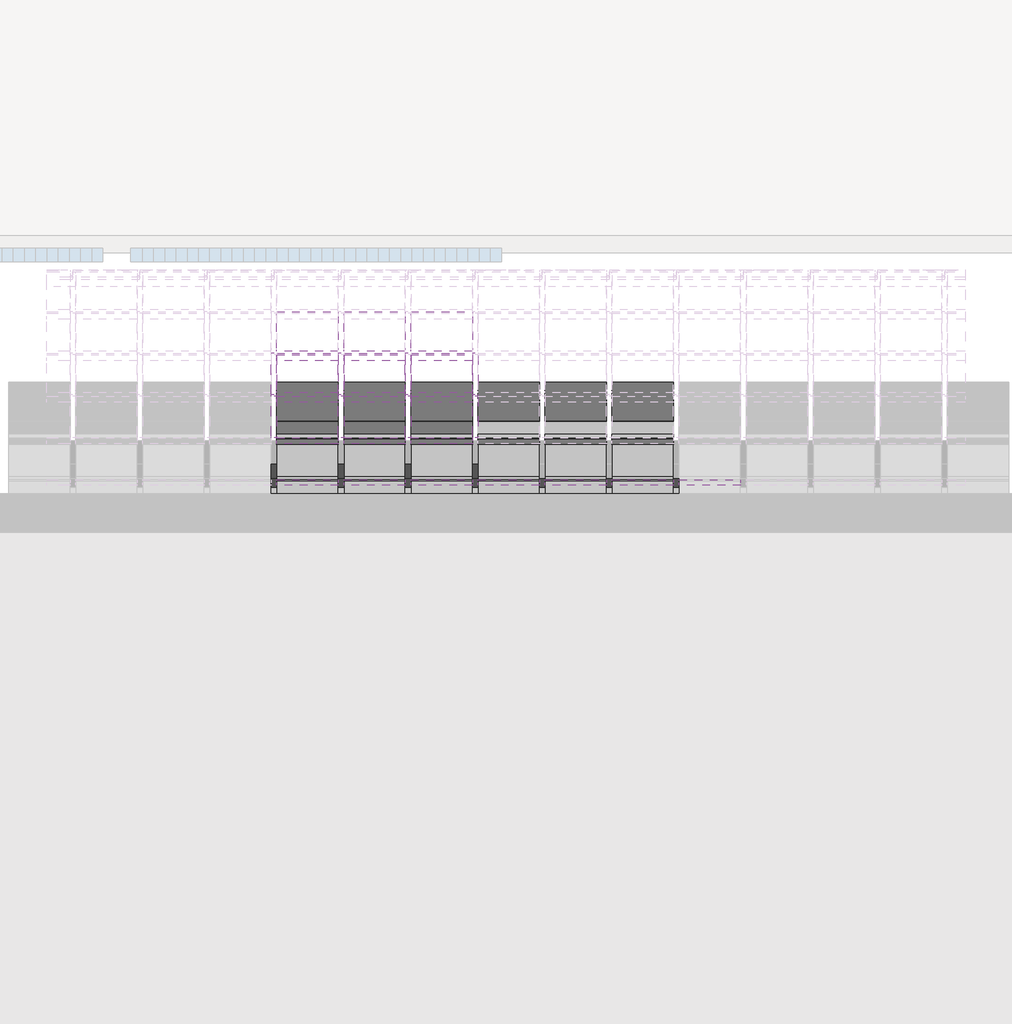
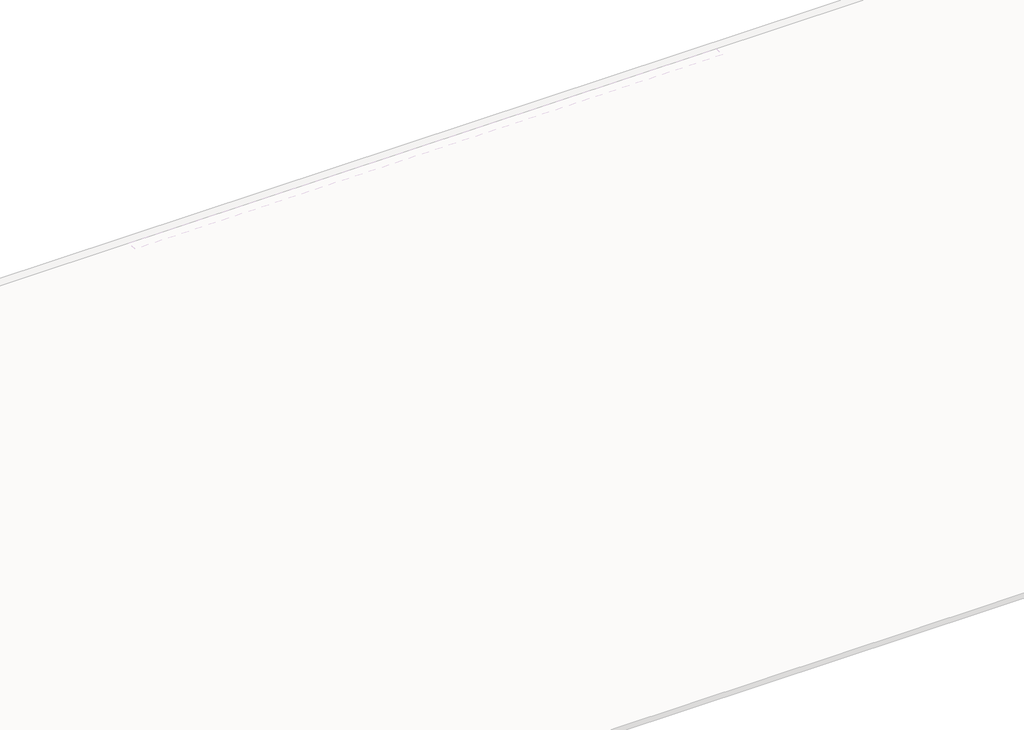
# One storey, part 49 of 57: 88 members, 36 plates.
"""IFC4 building model written with IfcOpenShell, lengths in millimetres."""

from ifc_helpers import new_model, si_unit, origin, place, context, project, spatial, transform, mapped, element, save
from components import rectangular_mullion_59984080, rectangular_mullion_2d2423ea, rectangular_mullion_caibro_e4384bba, rectangular_mullion_caibro_9bd7bc61, empty_system_panel_vazio_178faf58, empty_system_panel_vazio_2c78850d

model = new_model("IFC4")

# Units and contexts
model_context = context("Model", 3, world=origin())
ifc_project = project(units=[si_unit("LENGTHUNIT", "METRE", prefix="MILLI")], contexts=[model_context])

# Site, building, storey
site = spatial("IfcSite", under=ifc_project)
building = spatial("IfcBuilding", under=site)
storey = spatial("IfcBuildingStorey", under=building, Name="Nível 2", Elevation=4100.0)

# Members
placement = place(None, origin())
rectangular_mullion_shape = rectangular_mullion_59984080(model_context)
element("IfcMember", 1, ObjectType="Rectangular Mullion : Ripa", at=placement, inside=storey, context=model_context, shape_type="MappedRepresentation", body=[
    mapped(rectangular_mullion_shape, transform((33420.5827427, 12234.5331147, 4820.409113), x_axis=(0.0, 0.9578262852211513, 0.2873478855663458), y_axis=(0.0, 0.2873478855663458, -0.9578262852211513), z_axis=(-1.0, 0.0, 0.0))),
])
element("IfcMember", 2, ObjectType="Rectangular Mullion : Ripa", at=placement, inside=storey, context=model_context, shape_type="MappedRepresentation", body=[
    mapped(rectangular_mullion_shape, transform((34017.6374991, 12234.5331147, 4820.409113), x_axis=(0.0, 0.9578262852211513, 0.2873478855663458), y_axis=(0.0, 0.2873478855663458, -0.9578262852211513), z_axis=(-1.0, 0.0, 0.0))),
])
element("IfcMember", 3, ObjectType="Rectangular Mullion : Ripa", at=placement, inside=storey, context=model_context, shape_type="MappedRepresentation", body=[
    mapped(rectangular_mullion_shape, transform((34614.6922555, 12234.5331147, 4820.409113), x_axis=(0.0, 0.9578262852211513, 0.2873478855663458), y_axis=(0.0, 0.2873478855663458, -0.9578262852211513), z_axis=(-1.0, 0.0, 0.0))),
])
element("IfcMember", 4, ObjectType="Rectangular Mullion : Ripa", at=placement, inside=storey, context=model_context, shape_type="MappedRepresentation", body=[
    mapped(rectangular_mullion_shape, transform((35211.747012, 12234.5331147, 4820.409113), x_axis=(0.0, 0.9578262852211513, 0.2873478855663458), y_axis=(0.0, 0.2873478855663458, -0.9578262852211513), z_axis=(-1.0, 0.0, 0.0))),
])
element("IfcMember", 5, ObjectType="Rectangular Mullion : Ripa", at=placement, inside=storey, context=model_context, shape_type="MappedRepresentation", body=[
    mapped(rectangular_mullion_shape, transform((35808.8017684, 12234.5331147, 4820.409113), x_axis=(0.0, 0.9578262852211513, 0.2873478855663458), y_axis=(0.0, 0.2873478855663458, -0.9578262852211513), z_axis=(-1.0, 0.0, 0.0))),
])
element("IfcMember", 6, ObjectType="Rectangular Mullion : Ripa", at=placement, inside=storey, context=model_context, shape_type="MappedRepresentation", body=[
    mapped(rectangular_mullion_shape, transform((33420.5827427, 12604.7103734, 4931.4622906), x_axis=(0.0, 0.9578262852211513, 0.2873478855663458), y_axis=(0.0, 0.2873478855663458, -0.9578262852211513), z_axis=(-1.0, 0.0, 0.0))),
])
element("IfcMember", 7, ObjectType="Rectangular Mullion : Ripa", at=placement, inside=storey, context=model_context, shape_type="MappedRepresentation", body=[
    mapped(rectangular_mullion_shape, transform((34017.6374991, 12604.7103734, 4931.4622906), x_axis=(0.0, 0.9578262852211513, 0.2873478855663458), y_axis=(0.0, 0.2873478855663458, -0.9578262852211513), z_axis=(-1.0, 0.0, 0.0))),
])
element("IfcMember", 8, ObjectType="Rectangular Mullion : Ripa", at=placement, inside=storey, context=model_context, shape_type="MappedRepresentation", body=[
    mapped(rectangular_mullion_shape, transform((34614.6922555, 12604.7103734, 4931.4622906), x_axis=(0.0, 0.9578262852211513, 0.2873478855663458), y_axis=(0.0, 0.2873478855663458, -0.9578262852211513), z_axis=(-1.0, 0.0, 0.0))),
])
element("IfcMember", 9, ObjectType="Rectangular Mullion : Ripa", at=placement, inside=storey, context=model_context, shape_type="MappedRepresentation", body=[
    mapped(rectangular_mullion_shape, transform((35211.747012, 12604.7103734, 4931.4622906), x_axis=(0.0, 0.9578262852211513, 0.2873478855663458), y_axis=(0.0, 0.2873478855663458, -0.9578262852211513), z_axis=(-1.0, 0.0, 0.0))),
])
element("IfcMember", 10, ObjectType="Rectangular Mullion : Ripa", at=placement, inside=storey, context=model_context, shape_type="MappedRepresentation", body=[
    mapped(rectangular_mullion_shape, transform((35808.8017684, 12604.7103734, 4931.4622906), x_axis=(0.0, 0.9578262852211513, 0.2873478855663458), y_axis=(0.0, 0.2873478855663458, -0.9578262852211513), z_axis=(-1.0, 0.0, 0.0))),
])
element("IfcMember", 11, ObjectType="Rectangular Mullion : Ripa", at=placement, inside=storey, context=model_context, shape_type="MappedRepresentation", body=[
    mapped(rectangular_mullion_shape, transform((33420.5827427, 12974.8876321, 5042.5154682), x_axis=(0.0, 0.9578262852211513, 0.2873478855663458), y_axis=(0.0, 0.2873478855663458, -0.9578262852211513), z_axis=(-1.0, 0.0, 0.0))),
])
element("IfcMember", 12, ObjectType="Rectangular Mullion : Ripa", at=placement, inside=storey, context=model_context, shape_type="MappedRepresentation", body=[
    mapped(rectangular_mullion_shape, transform((34017.6374991, 12974.8876321, 5042.5154682), x_axis=(0.0, 0.9578262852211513, 0.2873478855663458), y_axis=(0.0, 0.2873478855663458, -0.9578262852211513), z_axis=(-1.0, 0.0, 0.0))),
])
element("IfcMember", 13, ObjectType="Rectangular Mullion : Ripa", at=placement, inside=storey, context=model_context, shape_type="MappedRepresentation", body=[
    mapped(rectangular_mullion_shape, transform((34614.6922555, 12974.8876321, 5042.5154682), x_axis=(0.0, 0.9578262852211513, 0.2873478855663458), y_axis=(0.0, 0.2873478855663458, -0.9578262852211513), z_axis=(-1.0, 0.0, 0.0))),
])
element("IfcMember", 14, ObjectType="Rectangular Mullion : Ripa", at=placement, inside=storey, context=model_context, shape_type="MappedRepresentation", body=[
    mapped(rectangular_mullion_shape, transform((35211.747012, 12974.8876321, 5042.5154682), x_axis=(0.0, 0.9578262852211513, 0.2873478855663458), y_axis=(0.0, 0.2873478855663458, -0.9578262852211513), z_axis=(-1.0, 0.0, 0.0))),
])
element("IfcMember", 15, ObjectType="Rectangular Mullion : Ripa", at=placement, inside=storey, context=model_context, shape_type="MappedRepresentation", body=[
    mapped(rectangular_mullion_shape, transform((35808.8017684, 12974.8876321, 5042.5154682), x_axis=(0.0, 0.9578262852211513, 0.2873478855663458), y_axis=(0.0, 0.2873478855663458, -0.9578262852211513), z_axis=(-1.0, 0.0, 0.0))),
])
element("IfcMember", 16, ObjectType="Rectangular Mullion : Ripa", at=placement, inside=storey, context=model_context, shape_type="MappedRepresentation", body=[
    mapped(rectangular_mullion_shape, transform((32226.4732298, 13345.0648907, 5153.5686458), x_axis=(0.0, 0.9578262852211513, 0.2873478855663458), y_axis=(0.0, 0.2873478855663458, -0.9578262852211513), z_axis=(-1.0, 0.0, 0.0))),
])
element("IfcMember", 17, ObjectType="Rectangular Mullion : Ripa", at=placement, inside=storey, context=model_context, shape_type="MappedRepresentation", body=[
    mapped(rectangular_mullion_shape, transform((32823.5279863, 13345.0648907, 5153.5686458), x_axis=(0.0, 0.9578262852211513, 0.2873478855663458), y_axis=(0.0, 0.2873478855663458, -0.9578262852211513), z_axis=(-1.0, 0.0, 0.0))),
])
element("IfcMember", 18, ObjectType="Rectangular Mullion : Ripa", at=placement, inside=storey, context=model_context, shape_type="MappedRepresentation", body=[
    mapped(rectangular_mullion_shape, transform((33420.5827427, 13345.0648907, 5153.5686458), x_axis=(0.0, 0.9578262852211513, 0.2873478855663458), y_axis=(0.0, 0.2873478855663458, -0.9578262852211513), z_axis=(-1.0, 0.0, 0.0))),
])
element("IfcMember", 19, ObjectType="Rectangular Mullion : Ripa", at=placement, inside=storey, context=model_context, shape_type="MappedRepresentation", body=[
    mapped(rectangular_mullion_shape, transform((34017.6374991, 13345.0648907, 5153.5686458), x_axis=(0.0, 0.9578262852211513, 0.2873478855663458), y_axis=(0.0, 0.2873478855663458, -0.9578262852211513), z_axis=(-1.0, 0.0, 0.0))),
])
element("IfcMember", 20, ObjectType="Rectangular Mullion : Ripa", at=placement, inside=storey, context=model_context, shape_type="MappedRepresentation", body=[
    mapped(rectangular_mullion_shape, transform((34614.6922555, 13345.0648907, 5153.5686458), x_axis=(0.0, 0.9578262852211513, 0.2873478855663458), y_axis=(0.0, 0.2873478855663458, -0.9578262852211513), z_axis=(-1.0, 0.0, 0.0))),
])
element("IfcMember", 21, ObjectType="Rectangular Mullion : Ripa", at=placement, inside=storey, context=model_context, shape_type="MappedRepresentation", body=[
    mapped(rectangular_mullion_shape, transform((35211.747012, 13345.0648907, 5153.5686458), x_axis=(0.0, 0.9578262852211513, 0.2873478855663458), y_axis=(0.0, 0.2873478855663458, -0.9578262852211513), z_axis=(-1.0, 0.0, 0.0))),
])
element("IfcMember", 22, ObjectType="Rectangular Mullion : Ripa", at=placement, inside=storey, context=model_context, shape_type="MappedRepresentation", body=[
    mapped(rectangular_mullion_shape, transform((35808.8017684, 13345.0648907, 5153.5686458), x_axis=(0.0, 0.9578262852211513, 0.2873478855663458), y_axis=(0.0, 0.2873478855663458, -0.9578262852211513), z_axis=(-1.0, 0.0, 0.0))),
])
element("IfcMember", 23, ObjectType="Rectangular Mullion : Ripa", at=placement, inside=storey, context=model_context, shape_type="MappedRepresentation", body=[
    mapped(rectangular_mullion_shape, transform((32226.4732298, 13715.2421494, 5264.6218234), x_axis=(0.0, 0.9578262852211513, 0.2873478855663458), y_axis=(0.0, 0.2873478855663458, -0.9578262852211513), z_axis=(-1.0, 0.0, 0.0))),
])
element("IfcMember", 24, ObjectType="Rectangular Mullion : Ripa", at=placement, inside=storey, context=model_context, shape_type="MappedRepresentation", body=[
    mapped(rectangular_mullion_shape, transform((32823.5279863, 13715.2421494, 5264.6218234), x_axis=(0.0, 0.9578262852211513, 0.2873478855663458), y_axis=(0.0, 0.2873478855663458, -0.9578262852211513), z_axis=(-1.0, 0.0, 0.0))),
])
element("IfcMember", 25, ObjectType="Rectangular Mullion : Ripa", at=placement, inside=storey, context=model_context, shape_type="MappedRepresentation", body=[
    mapped(rectangular_mullion_shape, transform((33420.5827427, 13715.2421494, 5264.6218234), x_axis=(0.0, 0.9578262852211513, 0.2873478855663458), y_axis=(0.0, 0.2873478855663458, -0.9578262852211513), z_axis=(-1.0, 0.0, 0.0))),
])
element("IfcMember", 26, ObjectType="Rectangular Mullion : Ripa", at=placement, inside=storey, context=model_context, shape_type="MappedRepresentation", body=[
    mapped(rectangular_mullion_shape, transform((34017.6374991, 13715.2421494, 5264.6218234), x_axis=(0.0, 0.9578262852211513, 0.2873478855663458), y_axis=(0.0, 0.2873478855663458, -0.9578262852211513), z_axis=(-1.0, 0.0, 0.0))),
])
element("IfcMember", 27, ObjectType="Rectangular Mullion : Ripa", at=placement, inside=storey, context=model_context, shape_type="MappedRepresentation", body=[
    mapped(rectangular_mullion_shape, transform((34614.6922555, 13715.2421494, 5264.6218234), x_axis=(0.0, 0.9578262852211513, 0.2873478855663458), y_axis=(0.0, 0.2873478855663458, -0.9578262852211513), z_axis=(-1.0, 0.0, 0.0))),
])
element("IfcMember", 28, ObjectType="Rectangular Mullion : Ripa", at=placement, inside=storey, context=model_context, shape_type="MappedRepresentation", body=[
    mapped(rectangular_mullion_shape, transform((35211.747012, 13715.2421494, 5264.6218234), x_axis=(0.0, 0.9578262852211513, 0.2873478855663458), y_axis=(0.0, 0.2873478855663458, -0.9578262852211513), z_axis=(-1.0, 0.0, 0.0))),
])
element("IfcMember", 29, ObjectType="Rectangular Mullion : Ripa", at=placement, inside=storey, context=model_context, shape_type="MappedRepresentation", body=[
    mapped(rectangular_mullion_shape, transform((35808.8017684, 13715.2421494, 5264.6218234), x_axis=(0.0, 0.9578262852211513, 0.2873478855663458), y_axis=(0.0, 0.2873478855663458, -0.9578262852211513), z_axis=(-1.0, 0.0, 0.0))),
])
element("IfcMember", 30, ObjectType="Rectangular Mullion : Ripa", at=placement, inside=storey, context=model_context, shape_type="MappedRepresentation", body=[
    mapped(rectangular_mullion_shape, transform((32226.4732298, 14085.4194081, 5375.675001), x_axis=(0.0, 0.9578262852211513, 0.2873478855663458), y_axis=(0.0, 0.2873478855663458, -0.9578262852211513), z_axis=(-1.0, 0.0, 0.0))),
])
element("IfcMember", 31, ObjectType="Rectangular Mullion : Ripa", at=placement, inside=storey, context=model_context, shape_type="MappedRepresentation", body=[
    mapped(rectangular_mullion_shape, transform((32823.5279863, 14085.4194081, 5375.675001), x_axis=(0.0, 0.9578262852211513, 0.2873478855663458), y_axis=(0.0, 0.2873478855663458, -0.9578262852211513), z_axis=(-1.0, 0.0, 0.0))),
])
element("IfcMember", 32, ObjectType="Rectangular Mullion : Ripa", at=placement, inside=storey, context=model_context, shape_type="MappedRepresentation", body=[
    mapped(rectangular_mullion_shape, transform((33420.5827427, 14085.4194081, 5375.675001), x_axis=(0.0, 0.9578262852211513, 0.2873478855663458), y_axis=(0.0, 0.2873478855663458, -0.9578262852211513), z_axis=(-1.0, 0.0, 0.0))),
])
element("IfcMember", 33, ObjectType="Rectangular Mullion : Ripa", at=placement, inside=storey, context=model_context, shape_type="MappedRepresentation", body=[
    mapped(rectangular_mullion_shape, transform((32226.4732298, 14455.5966667, 5486.7281786), x_axis=(0.0, 0.9578262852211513, 0.2873478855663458), y_axis=(0.0, 0.2873478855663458, -0.9578262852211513), z_axis=(-1.0, 0.0, 0.0))),
])
element("IfcMember", 34, ObjectType="Rectangular Mullion : Ripa", at=placement, inside=storey, context=model_context, shape_type="MappedRepresentation", body=[
    mapped(rectangular_mullion_shape, transform((32823.5279863, 14455.5966667, 5486.7281786), x_axis=(0.0, 0.9578262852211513, 0.2873478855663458), y_axis=(0.0, 0.2873478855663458, -0.9578262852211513), z_axis=(-1.0, 0.0, 0.0))),
])
element("IfcMember", 35, ObjectType="Rectangular Mullion : Ripa", at=placement, inside=storey, context=model_context, shape_type="MappedRepresentation", body=[
    mapped(rectangular_mullion_shape, transform((33420.5827427, 14455.5966667, 5486.7281786), x_axis=(0.0, 0.9578262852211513, 0.2873478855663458), y_axis=(0.0, 0.2873478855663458, -0.9578262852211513), z_axis=(-1.0, 0.0, 0.0))),
])
element("IfcMember", 36, ObjectType="Rectangular Mullion : Ripa", at=placement, inside=storey, context=model_context, shape_type="MappedRepresentation", body=[
    mapped(rectangular_mullion_shape, transform((32226.4732298, 14825.7739254, 5597.7813562), x_axis=(0.0, 0.9578262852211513, 0.2873478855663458), y_axis=(0.0, 0.2873478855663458, -0.9578262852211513), z_axis=(-1.0, 0.0, 0.0))),
])
element("IfcMember", 37, ObjectType="Rectangular Mullion : Ripa", at=placement, inside=storey, context=model_context, shape_type="MappedRepresentation", body=[
    mapped(rectangular_mullion_shape, transform((32823.5279863, 14825.7739254, 5597.7813562), x_axis=(0.0, 0.9578262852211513, 0.2873478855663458), y_axis=(0.0, 0.2873478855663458, -0.9578262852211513), z_axis=(-1.0, 0.0, 0.0))),
])
element("IfcMember", 38, ObjectType="Rectangular Mullion : Ripa", at=placement, inside=storey, context=model_context, shape_type="MappedRepresentation", body=[
    mapped(rectangular_mullion_shape, transform((33420.5827427, 14825.7739254, 5597.7813562), x_axis=(0.0, 0.9578262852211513, 0.2873478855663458), y_axis=(0.0, 0.2873478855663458, -0.9578262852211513), z_axis=(-1.0, 0.0, 0.0))),
])
rectangular_mullion_2_shape = rectangular_mullion_2d2423ea(model_context)
element("IfcMember", 39, ObjectType="Rectangular Mullion : Terça", at=placement, inside=storey, context=model_context, shape_type="MappedRepresentation", body=[
    mapped(rectangular_mullion_2_shape, transform((32226.4732298, 13411.2689826, 5110.7880343), x_axis=(0.0, 0.9578262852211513, 0.2873478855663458), y_axis=(0.0, 0.2873478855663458, -0.9578262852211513), z_axis=(-1.0, 0.0, 0.0))),
])
element("IfcMember", 40, ObjectType="Rectangular Mullion : Terça", at=placement, inside=storey, context=model_context, shape_type="MappedRepresentation", body=[
    mapped(rectangular_mullion_2_shape, transform((32823.5279863, 13411.2689826, 5110.7880343), x_axis=(0.0, 0.9578262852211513, 0.2873478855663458), y_axis=(0.0, 0.2873478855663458, -0.9578262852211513), z_axis=(-1.0, 0.0, 0.0))),
])
element("IfcMember", 41, ObjectType="Rectangular Mullion : Terça", at=placement, inside=storey, context=model_context, shape_type="MappedRepresentation", body=[
    mapped(rectangular_mullion_2_shape, transform((33420.5827427, 13411.2689826, 5110.7880343), x_axis=(0.0, 0.9578262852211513, 0.2873478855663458), y_axis=(0.0, 0.2873478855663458, -0.9578262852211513), z_axis=(-1.0, 0.0, 0.0))),
])
element("IfcMember", 42, ObjectType="Rectangular Mullion : Terça", at=placement, inside=storey, context=model_context, shape_type="MappedRepresentation", body=[
    mapped(rectangular_mullion_2_shape, transform((34017.6374991, 13411.2689826, 5110.7880343), x_axis=(0.0, 0.9578262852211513, 0.2873478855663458), y_axis=(0.0, 0.2873478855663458, -0.9578262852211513), z_axis=(-1.0, 0.0, 0.0))),
])
element("IfcMember", 43, ObjectType="Rectangular Mullion : Terça", at=placement, inside=storey, context=model_context, shape_type="MappedRepresentation", body=[
    mapped(rectangular_mullion_2_shape, transform((34614.6922555, 13411.2689826, 5110.7880343), x_axis=(0.0, 0.9578262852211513, 0.2873478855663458), y_axis=(0.0, 0.2873478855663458, -0.9578262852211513), z_axis=(-1.0, 0.0, 0.0))),
])
element("IfcMember", 44, ObjectType="Rectangular Mullion : Terça", at=placement, inside=storey, context=model_context, shape_type="MappedRepresentation", body=[
    mapped(rectangular_mullion_2_shape, transform((35211.747012, 13411.2689826, 5110.7880343), x_axis=(0.0, 0.9578262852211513, 0.2873478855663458), y_axis=(0.0, 0.2873478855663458, -0.9578262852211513), z_axis=(-1.0, 0.0, 0.0))),
])
element("IfcMember", 45, ObjectType="Rectangular Mullion : Terça", at=placement, inside=storey, context=model_context, shape_type="MappedRepresentation", body=[
    mapped(rectangular_mullion_2_shape, transform((35808.8017684, 13411.2689826, 5110.7880343), x_axis=(0.0, 0.9578262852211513, 0.2873478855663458), y_axis=(0.0, 0.2873478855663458, -0.9578262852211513), z_axis=(-1.0, 0.0, 0.0))),
])
rectangular_mullion_caibro_shape = rectangular_mullion_caibro_e4384bba(model_context)
element("IfcMember", 46, ObjectType="Rectangular Mullion : Caibro", at=placement, inside=storey, context=model_context, shape_type="MappedRepresentation", body=[
    mapped(rectangular_mullion_caibro_shape, transform((32201.4732298, 13345.0648907, 5153.5686458), x_axis=(1.0, 0.0, 0.0), y_axis=(0.0, 0.28734788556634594, -0.9578262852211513), z_axis=(0.0, 0.9578262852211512, 0.2873478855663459))),
])
element("IfcMember", 47, ObjectType="Rectangular Mullion : Caibro", at=placement, inside=storey, context=model_context, shape_type="MappedRepresentation", body=[
    mapped(rectangular_mullion_caibro_shape, transform((32201.4732298, 13715.2421494, 5264.6218234), x_axis=(1.0, 0.0, 0.0), y_axis=(0.0, 0.28734788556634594, -0.9578262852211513), z_axis=(0.0, 0.9578262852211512, 0.2873478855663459))),
])
element("IfcMember", 48, ObjectType="Rectangular Mullion : Caibro", at=placement, inside=storey, context=model_context, shape_type="MappedRepresentation", body=[
    mapped(rectangular_mullion_caibro_shape, transform((32201.4732298, 14085.4194081, 5375.675001), x_axis=(1.0, 0.0, 0.0), y_axis=(0.0, 0.28734788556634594, -0.9578262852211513), z_axis=(0.0, 0.9578262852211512, 0.2873478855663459))),
])
element("IfcMember", 49, ObjectType="Rectangular Mullion : Caibro", at=placement, inside=storey, context=model_context, shape_type="MappedRepresentation", body=[
    mapped(rectangular_mullion_caibro_shape, transform((32201.4732298, 14455.5966667, 5486.7281786), x_axis=(1.0, 0.0, 0.0), y_axis=(0.0, 0.28734788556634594, -0.9578262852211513), z_axis=(0.0, 0.9578262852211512, 0.2873478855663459))),
])
element("IfcMember", 50, ObjectType="Rectangular Mullion : Caibro", at=placement, inside=storey, context=model_context, shape_type="MappedRepresentation", body=[
    mapped(rectangular_mullion_caibro_shape, transform((32201.4732298, 14825.7739254, 5597.7813562), x_axis=(1.0, 0.0, 0.0), y_axis=(0.0, 0.28734788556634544, -0.9578262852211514), z_axis=(0.0, 0.9578262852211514, 0.28734788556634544))),
])
element("IfcMember", 51, ObjectType="Rectangular Mullion : Caibro", at=placement, inside=storey, context=model_context, shape_type="MappedRepresentation", body=[
    mapped(rectangular_mullion_caibro_shape, transform((32798.5279863, 13345.0648907, 5153.5686458), x_axis=(1.0, 0.0, 0.0), y_axis=(0.0, 0.28734788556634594, -0.9578262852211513), z_axis=(0.0, 0.9578262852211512, 0.2873478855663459))),
])
element("IfcMember", 52, ObjectType="Rectangular Mullion : Caibro", at=placement, inside=storey, context=model_context, shape_type="MappedRepresentation", body=[
    mapped(rectangular_mullion_caibro_shape, transform((32798.5279863, 13715.2421494, 5264.6218234), x_axis=(1.0, 0.0, 0.0), y_axis=(0.0, 0.28734788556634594, -0.9578262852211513), z_axis=(0.0, 0.9578262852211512, 0.2873478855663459))),
])
element("IfcMember", 53, ObjectType="Rectangular Mullion : Caibro", at=placement, inside=storey, context=model_context, shape_type="MappedRepresentation", body=[
    mapped(rectangular_mullion_caibro_shape, transform((32798.5279863, 14085.4194081, 5375.675001), x_axis=(1.0, 0.0, 0.0), y_axis=(0.0, 0.28734788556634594, -0.9578262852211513), z_axis=(0.0, 0.9578262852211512, 0.2873478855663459))),
])
element("IfcMember", 54, ObjectType="Rectangular Mullion : Caibro", at=placement, inside=storey, context=model_context, shape_type="MappedRepresentation", body=[
    mapped(rectangular_mullion_caibro_shape, transform((32798.5279863, 14455.5966667, 5486.7281786), x_axis=(1.0, 0.0, 0.0), y_axis=(0.0, 0.28734788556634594, -0.9578262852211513), z_axis=(0.0, 0.9578262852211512, 0.2873478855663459))),
])
element("IfcMember", 55, ObjectType="Rectangular Mullion : Caibro", at=placement, inside=storey, context=model_context, shape_type="MappedRepresentation", body=[
    mapped(rectangular_mullion_caibro_shape, transform((32798.5279863, 14825.7739254, 5597.7813562), x_axis=(1.0, 0.0, 0.0), y_axis=(0.0, 0.28734788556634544, -0.9578262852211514), z_axis=(0.0, 0.9578262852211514, 0.28734788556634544))),
])
element("IfcMember", 56, ObjectType="Rectangular Mullion : Caibro", at=placement, inside=storey, context=model_context, shape_type="MappedRepresentation", body=[
    mapped(rectangular_mullion_caibro_shape, transform((33395.5827427, 13345.0648907, 5153.5686458), x_axis=(1.0, 0.0, 0.0), y_axis=(0.0, 0.28734788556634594, -0.9578262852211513), z_axis=(0.0, 0.9578262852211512, 0.2873478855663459))),
])
element("IfcMember", 57, ObjectType="Rectangular Mullion : Caibro", at=placement, inside=storey, context=model_context, shape_type="MappedRepresentation", body=[
    mapped(rectangular_mullion_caibro_shape, transform((33395.5827427, 13715.2421494, 5264.6218234), x_axis=(1.0, 0.0, 0.0), y_axis=(0.0, 0.28734788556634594, -0.9578262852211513), z_axis=(0.0, 0.9578262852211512, 0.2873478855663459))),
])
element("IfcMember", 58, ObjectType="Rectangular Mullion : Caibro", at=placement, inside=storey, context=model_context, shape_type="MappedRepresentation", body=[
    mapped(rectangular_mullion_caibro_shape, transform((33395.5827427, 14085.4194081, 5375.675001), x_axis=(1.0, 0.0, 0.0), y_axis=(0.0, 0.28734788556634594, -0.9578262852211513), z_axis=(0.0, 0.9578262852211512, 0.2873478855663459))),
])
element("IfcMember", 59, ObjectType="Rectangular Mullion : Caibro", at=placement, inside=storey, context=model_context, shape_type="MappedRepresentation", body=[
    mapped(rectangular_mullion_caibro_shape, transform((33395.5827427, 14455.5966667, 5486.7281786), x_axis=(1.0, 0.0, 0.0), y_axis=(0.0, 0.2873478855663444, -0.9578262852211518), z_axis=(0.0, 0.9578262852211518, 0.2873478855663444))),
])
element("IfcMember", 60, ObjectType="Rectangular Mullion : Caibro", at=placement, inside=storey, context=model_context, shape_type="MappedRepresentation", body=[
    mapped(rectangular_mullion_caibro_shape, transform((33395.5827427, 14825.7739254, 5597.7813562), x_axis=(1.0, 0.0, 0.0), y_axis=(0.0, 0.287347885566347, -0.9578262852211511), z_axis=(0.0, 0.9578262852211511, 0.287347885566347))),
])
element("IfcMember", 61, ObjectType="Rectangular Mullion : Caibro", at=placement, inside=storey, context=model_context, shape_type="MappedRepresentation", body=[
    mapped(rectangular_mullion_caibro_shape, transform((33992.6374991, 12974.8876321, 5042.5154682), x_axis=(1.0, 0.0, 0.0), y_axis=(0.0, 0.2873478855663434, -0.957826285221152), z_axis=(0.0, 0.957826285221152, 0.2873478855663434))),
])
element("IfcMember", 62, ObjectType="Rectangular Mullion : Caibro", at=placement, inside=storey, context=model_context, shape_type="MappedRepresentation", body=[
    mapped(rectangular_mullion_caibro_shape, transform((33992.6374991, 13345.0648907, 5153.5686458), x_axis=(1.0, 0.0, 0.0), y_axis=(0.0, 0.28734788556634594, -0.9578262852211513), z_axis=(0.0, 0.9578262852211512, 0.2873478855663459))),
])
element("IfcMember", 63, ObjectType="Rectangular Mullion : Caibro", at=placement, inside=storey, context=model_context, shape_type="MappedRepresentation", body=[
    mapped(rectangular_mullion_caibro_shape, transform((33992.6374991, 13715.2421494, 5264.6218234), x_axis=(1.0, 0.0, 0.0), y_axis=(0.0, 0.28734788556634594, -0.9578262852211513), z_axis=(0.0, 0.9578262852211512, 0.2873478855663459))),
])
element("IfcMember", 64, ObjectType="Rectangular Mullion : Caibro", at=placement, inside=storey, context=model_context, shape_type="MappedRepresentation", body=[
    mapped(rectangular_mullion_caibro_shape, transform((33992.6374991, 14085.4194081, 5375.675001), x_axis=(1.0, 0.0, 0.0), y_axis=(0.0, 0.28734788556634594, -0.9578262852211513), z_axis=(0.0, 0.9578262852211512, 0.2873478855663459))),
])
element("IfcMember", 65, ObjectType="Rectangular Mullion : Caibro", at=placement, inside=storey, context=model_context, shape_type="MappedRepresentation", body=[
    mapped(rectangular_mullion_caibro_shape, transform((33992.6374991, 14455.5966667, 5486.7281786), x_axis=(1.0, 0.0, 0.0), y_axis=(0.0, 0.2873478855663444, -0.9578262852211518), z_axis=(0.0, 0.9578262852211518, 0.2873478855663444))),
])
element("IfcMember", 66, ObjectType="Rectangular Mullion : Caibro", at=placement, inside=storey, context=model_context, shape_type="MappedRepresentation", body=[
    mapped(rectangular_mullion_caibro_shape, transform((33992.6374991, 14825.7739254, 5597.7813562), x_axis=(1.0, 0.0, 0.0), y_axis=(0.0, 0.287347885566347, -0.9578262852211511), z_axis=(0.0, 0.9578262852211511, 0.287347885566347))),
])
element("IfcMember", 67, ObjectType="Rectangular Mullion : Caibro", at=placement, inside=storey, context=model_context, shape_type="MappedRepresentation", body=[
    mapped(rectangular_mullion_caibro_shape, transform((34589.6922555, 12234.5331147, 4820.409113), x_axis=(1.0, 0.0, 0.0), y_axis=(0.0, 0.2873478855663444, -0.9578262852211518), z_axis=(0.0, 0.9578262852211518, 0.2873478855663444))),
])
element("IfcMember", 68, ObjectType="Rectangular Mullion : Caibro", at=placement, inside=storey, context=model_context, shape_type="MappedRepresentation", body=[
    mapped(rectangular_mullion_caibro_shape, transform((34589.6922555, 12604.7103734, 4931.4622906), x_axis=(1.0, 0.0, 0.0), y_axis=(0.0, 0.2873478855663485, -0.9578262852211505), z_axis=(0.0, 0.9578262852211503, 0.28734788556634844))),
])
element("IfcMember", 69, ObjectType="Rectangular Mullion : Caibro", at=placement, inside=storey, context=model_context, shape_type="MappedRepresentation", body=[
    mapped(rectangular_mullion_caibro_shape, transform((34589.6922555, 12974.8876321, 5042.5154682), x_axis=(1.0, 0.0, 0.0), y_axis=(0.0, 0.2873478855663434, -0.957826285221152), z_axis=(0.0, 0.957826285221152, 0.2873478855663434))),
])
element("IfcMember", 70, ObjectType="Rectangular Mullion : Caibro", at=placement, inside=storey, context=model_context, shape_type="MappedRepresentation", body=[
    mapped(rectangular_mullion_caibro_shape, transform((34589.6922555, 13345.0648907, 5153.5686458), x_axis=(1.0, 0.0, 0.0), y_axis=(0.0, 0.28734788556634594, -0.9578262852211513), z_axis=(0.0, 0.9578262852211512, 0.2873478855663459))),
])
element("IfcMember", 71, ObjectType="Rectangular Mullion : Caibro", at=placement, inside=storey, context=model_context, shape_type="MappedRepresentation", body=[
    mapped(rectangular_mullion_caibro_shape, transform((34589.6922555, 13715.2421494, 5264.6218234), x_axis=(1.0, 0.0, 0.0), y_axis=(0.0, 0.28734788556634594, -0.9578262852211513), z_axis=(0.0, 0.9578262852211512, 0.2873478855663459))),
])
element("IfcMember", 72, ObjectType="Rectangular Mullion : Caibro", at=placement, inside=storey, context=model_context, shape_type="MappedRepresentation", body=[
    mapped(rectangular_mullion_caibro_shape, transform((35186.747012, 12234.5331147, 4820.409113), x_axis=(1.0, 0.0, 0.0), y_axis=(0.0, 0.2873478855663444, -0.9578262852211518), z_axis=(0.0, 0.9578262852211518, 0.2873478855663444))),
])
element("IfcMember", 73, ObjectType="Rectangular Mullion : Caibro", at=placement, inside=storey, context=model_context, shape_type="MappedRepresentation", body=[
    mapped(rectangular_mullion_caibro_shape, transform((35186.747012, 12604.7103734, 4931.4622906), x_axis=(1.0, 0.0, 0.0), y_axis=(0.0, 0.2873478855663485, -0.9578262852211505), z_axis=(0.0, 0.9578262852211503, 0.28734788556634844))),
])
element("IfcMember", 74, ObjectType="Rectangular Mullion : Caibro", at=placement, inside=storey, context=model_context, shape_type="MappedRepresentation", body=[
    mapped(rectangular_mullion_caibro_shape, transform((35186.747012, 12974.8876321, 5042.5154682), x_axis=(1.0, 0.0, 0.0), y_axis=(0.0, 0.2873478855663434, -0.957826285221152), z_axis=(0.0, 0.957826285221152, 0.2873478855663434))),
])
element("IfcMember", 75, ObjectType="Rectangular Mullion : Caibro", at=placement, inside=storey, context=model_context, shape_type="MappedRepresentation", body=[
    mapped(rectangular_mullion_caibro_shape, transform((35186.747012, 13345.0648907, 5153.5686458), x_axis=(1.0, 0.0, 0.0), y_axis=(0.0, 0.28734788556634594, -0.9578262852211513), z_axis=(0.0, 0.9578262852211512, 0.2873478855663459))),
])
element("IfcMember", 76, ObjectType="Rectangular Mullion : Caibro", at=placement, inside=storey, context=model_context, shape_type="MappedRepresentation", body=[
    mapped(rectangular_mullion_caibro_shape, transform((35186.747012, 13715.2421494, 5264.6218234), x_axis=(1.0, 0.0, 0.0), y_axis=(0.0, 0.28734788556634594, -0.9578262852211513), z_axis=(0.0, 0.9578262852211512, 0.2873478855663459))),
])
element("IfcMember", 77, ObjectType="Rectangular Mullion : Caibro", at=placement, inside=storey, context=model_context, shape_type="MappedRepresentation", body=[
    mapped(rectangular_mullion_caibro_shape, transform((35783.8017684, 12234.5331147, 4820.409113), x_axis=(1.0, 0.0, 0.0), y_axis=(0.0, 0.2873478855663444, -0.9578262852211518), z_axis=(0.0, 0.9578262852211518, 0.2873478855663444))),
])
element("IfcMember", 78, ObjectType="Rectangular Mullion : Caibro", at=placement, inside=storey, context=model_context, shape_type="MappedRepresentation", body=[
    mapped(rectangular_mullion_caibro_shape, transform((35783.8017684, 12604.7103734, 4931.4622906), x_axis=(1.0, 0.0, 0.0), y_axis=(0.0, 0.2873478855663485, -0.9578262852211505), z_axis=(0.0, 0.9578262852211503, 0.28734788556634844))),
])
element("IfcMember", 79, ObjectType="Rectangular Mullion : Caibro", at=placement, inside=storey, context=model_context, shape_type="MappedRepresentation", body=[
    mapped(rectangular_mullion_caibro_shape, transform((35783.8017684, 12974.8876321, 5042.5154682), x_axis=(1.0, 0.0, 0.0), y_axis=(0.0, 0.2873478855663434, -0.957826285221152), z_axis=(0.0, 0.957826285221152, 0.2873478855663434))),
])
element("IfcMember", 80, ObjectType="Rectangular Mullion : Caibro", at=placement, inside=storey, context=model_context, shape_type="MappedRepresentation", body=[
    mapped(rectangular_mullion_caibro_shape, transform((35783.8017684, 13345.0648907, 5153.5686458), x_axis=(1.0, 0.0, 0.0), y_axis=(0.0, 0.28734788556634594, -0.9578262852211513), z_axis=(0.0, 0.9578262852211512, 0.2873478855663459))),
])
element("IfcMember", 81, ObjectType="Rectangular Mullion : Caibro", at=placement, inside=storey, context=model_context, shape_type="MappedRepresentation", body=[
    mapped(rectangular_mullion_caibro_shape, transform((35783.8017684, 13715.2421494, 5264.6218234), x_axis=(1.0, 0.0, 0.0), y_axis=(0.0, 0.28734788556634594, -0.9578262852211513), z_axis=(0.0, 0.9578262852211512, 0.2873478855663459))),
])
rectangular_mullion_caibro_2_shape = rectangular_mullion_caibro_9bd7bc61(model_context)
element("IfcMember", 82, ObjectType="Rectangular Mullion : Caibro", at=placement, inside=storey, context=model_context, shape_type="MappedRepresentation", body=[
    mapped(rectangular_mullion_caibro_2_shape, transform((32201.4732298, 13411.2689826, 5110.7880343), x_axis=(1.0, 0.0, 0.0), y_axis=(0.0, 0.2873478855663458, -0.9578262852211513), z_axis=(0.0, 0.9578262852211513, 0.2873478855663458))),
])
element("IfcMember", 83, ObjectType="Rectangular Mullion : Caibro", at=placement, inside=storey, context=model_context, shape_type="MappedRepresentation", body=[
    mapped(rectangular_mullion_caibro_2_shape, transform((32798.5279863, 13411.2689826, 5110.7880343), x_axis=(1.0, 0.0, 0.0), y_axis=(0.0, 0.2873478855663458, -0.9578262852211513), z_axis=(0.0, 0.9578262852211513, 0.2873478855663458))),
])
element("IfcMember", 84, ObjectType="Rectangular Mullion : Caibro", at=placement, inside=storey, context=model_context, shape_type="MappedRepresentation", body=[
    mapped(rectangular_mullion_caibro_2_shape, transform((33395.5827427, 13411.2689826, 5110.7880343), x_axis=(1.0, 0.0, 0.0), y_axis=(0.0, 0.2873478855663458, -0.9578262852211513), z_axis=(0.0, 0.9578262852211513, 0.2873478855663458))),
])
element("IfcMember", 85, ObjectType="Rectangular Mullion : Caibro", at=placement, inside=storey, context=model_context, shape_type="MappedRepresentation", body=[
    mapped(rectangular_mullion_caibro_2_shape, transform((33992.6374991, 13411.2689826, 5110.7880343), x_axis=(1.0, 0.0, 0.0), y_axis=(0.0, 0.2873478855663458, -0.9578262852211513), z_axis=(0.0, 0.9578262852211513, 0.2873478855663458))),
])
element("IfcMember", 86, ObjectType="Rectangular Mullion : Caibro", at=placement, inside=storey, context=model_context, shape_type="MappedRepresentation", body=[
    mapped(rectangular_mullion_caibro_2_shape, transform((34589.6922555, 13411.2689826, 5110.7880343), x_axis=(1.0, 0.0, 0.0), y_axis=(0.0, 0.2873478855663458, -0.9578262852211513), z_axis=(0.0, 0.9578262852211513, 0.2873478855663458))),
])
element("IfcMember", 87, ObjectType="Rectangular Mullion : Caibro", at=placement, inside=storey, context=model_context, shape_type="MappedRepresentation", body=[
    mapped(rectangular_mullion_caibro_2_shape, transform((35186.747012, 13411.2689826, 5110.7880343), x_axis=(1.0, 0.0, 0.0), y_axis=(0.0, 0.2873478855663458, -0.9578262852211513), z_axis=(0.0, 0.9578262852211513, 0.2873478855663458))),
])
element("IfcMember", 88, ObjectType="Rectangular Mullion : Caibro", at=placement, inside=storey, context=model_context, shape_type="MappedRepresentation", body=[
    mapped(rectangular_mullion_caibro_2_shape, transform((35783.8017684, 13411.2689826, 5110.7880343), x_axis=(1.0, 0.0, 0.0), y_axis=(0.0, 0.2873478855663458, -0.9578262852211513), z_axis=(0.0, 0.9578262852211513, 0.2873478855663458))),
])

# Plates
empty_system_panel_vazio_shape = empty_system_panel_vazio_178faf58(model_context)
element("IfcPlate", 89, ObjectType="Empty System Panel : Vazio", at=placement, inside=storey, context=model_context, shape_type="MappedRepresentation", body=[
    mapped(empty_system_panel_vazio_shape, transform((34291.1648773, 12234.5331147, 4820.409113), x_axis=(1.0, 0.0, 0.0), y_axis=(0.0, 0.2873478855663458, -0.9578262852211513), z_axis=(0.0, 0.9578262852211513, 0.2873478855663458))),
])
element("IfcPlate", 90, ObjectType="Empty System Panel : Vazio", at=placement, inside=storey, context=model_context, shape_type="MappedRepresentation", body=[
    mapped(empty_system_panel_vazio_shape, transform((34888.2196337, 12234.5331147, 4820.409113), x_axis=(1.0, 0.0, 0.0), y_axis=(0.0, 0.2873478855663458, -0.9578262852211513), z_axis=(0.0, 0.9578262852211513, 0.2873478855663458))),
])
element("IfcPlate", 91, ObjectType="Empty System Panel : Vazio", at=placement, inside=storey, context=model_context, shape_type="MappedRepresentation", body=[
    mapped(empty_system_panel_vazio_shape, transform((35485.2743902, 12234.5331147, 4820.409113), x_axis=(1.0, 0.0, 0.0), y_axis=(0.0, 0.2873478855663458, -0.9578262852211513), z_axis=(0.0, 0.9578262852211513, 0.2873478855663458))),
])
element("IfcPlate", 92, ObjectType="Empty System Panel : Vazio", at=placement, inside=storey, context=model_context, shape_type="MappedRepresentation", body=[
    mapped(empty_system_panel_vazio_shape, transform((34291.1648773, 12604.7103734, 4931.4622906), x_axis=(1.0, 0.0, 0.0), y_axis=(0.0, 0.2873478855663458, -0.9578262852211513), z_axis=(0.0, 0.9578262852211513, 0.2873478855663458))),
])
element("IfcPlate", 93, ObjectType="Empty System Panel : Vazio", at=placement, inside=storey, context=model_context, shape_type="MappedRepresentation", body=[
    mapped(empty_system_panel_vazio_shape, transform((34888.2196337, 12604.7103734, 4931.4622906), x_axis=(1.0, 0.0, 0.0), y_axis=(0.0, 0.2873478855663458, -0.9578262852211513), z_axis=(0.0, 0.9578262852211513, 0.2873478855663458))),
])
element("IfcPlate", 94, ObjectType="Empty System Panel : Vazio", at=placement, inside=storey, context=model_context, shape_type="MappedRepresentation", body=[
    mapped(empty_system_panel_vazio_shape, transform((35485.2743902, 12604.7103734, 4931.4622906), x_axis=(1.0, 0.0, 0.0), y_axis=(0.0, 0.2873478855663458, -0.9578262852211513), z_axis=(0.0, 0.9578262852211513, 0.2873478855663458))),
])
element("IfcPlate", 95, ObjectType="Empty System Panel : Vazio", at=placement, inside=storey, context=model_context, shape_type="MappedRepresentation", body=[
    mapped(empty_system_panel_vazio_shape, transform((34291.1648773, 12974.8876321, 5042.5154682), x_axis=(1.0, 0.0, 0.0), y_axis=(0.0, 0.2873478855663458, -0.9578262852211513), z_axis=(0.0, 0.9578262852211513, 0.2873478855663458))),
])
element("IfcPlate", 96, ObjectType="Empty System Panel : Vazio", at=placement, inside=storey, context=model_context, shape_type="MappedRepresentation", body=[
    mapped(empty_system_panel_vazio_shape, transform((34888.2196337, 12974.8876321, 5042.5154682), x_axis=(1.0, 0.0, 0.0), y_axis=(0.0, 0.2873478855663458, -0.9578262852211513), z_axis=(0.0, 0.9578262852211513, 0.2873478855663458))),
])
element("IfcPlate", 97, ObjectType="Empty System Panel : Vazio", at=placement, inside=storey, context=model_context, shape_type="MappedRepresentation", body=[
    mapped(empty_system_panel_vazio_shape, transform((35485.2743902, 12974.8876321, 5042.5154682), x_axis=(1.0, 0.0, 0.0), y_axis=(0.0, 0.2873478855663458, -0.9578262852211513), z_axis=(0.0, 0.9578262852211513, 0.2873478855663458))),
])
element("IfcPlate", 98, ObjectType="Empty System Panel : Vazio", at=placement, inside=storey, context=model_context, shape_type="MappedRepresentation", body=[
    mapped(empty_system_panel_vazio_shape, transform((32500.000608, 13345.0648907, 5153.5686458), x_axis=(1.0, 0.0, 0.0), y_axis=(0.0, 0.2873478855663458, -0.9578262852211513), z_axis=(0.0, 0.9578262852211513, 0.2873478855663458))),
])
element("IfcPlate", 99, ObjectType="Empty System Panel : Vazio", at=placement, inside=storey, context=model_context, shape_type="MappedRepresentation", body=[
    mapped(empty_system_panel_vazio_shape, transform((33097.0553645, 13345.0648907, 5153.5686458), x_axis=(1.0, 0.0, 0.0), y_axis=(0.0, 0.2873478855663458, -0.9578262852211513), z_axis=(0.0, 0.9578262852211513, 0.2873478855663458))),
])
element("IfcPlate", 100, ObjectType="Empty System Panel : Vazio", at=placement, inside=storey, context=model_context, shape_type="MappedRepresentation", body=[
    mapped(empty_system_panel_vazio_shape, transform((33694.1101209, 13345.0648907, 5153.5686458), x_axis=(1.0, 0.0, 0.0), y_axis=(0.0, 0.2873478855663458, -0.9578262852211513), z_axis=(0.0, 0.9578262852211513, 0.2873478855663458))),
])
element("IfcPlate", 101, ObjectType="Empty System Panel : Vazio", at=placement, inside=storey, context=model_context, shape_type="MappedRepresentation", body=[
    mapped(empty_system_panel_vazio_shape, transform((34291.1648773, 13345.0648907, 5153.5686458), x_axis=(1.0, 0.0, 0.0), y_axis=(0.0, 0.2873478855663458, -0.9578262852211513), z_axis=(0.0, 0.9578262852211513, 0.2873478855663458))),
])
element("IfcPlate", 102, ObjectType="Empty System Panel : Vazio", at=placement, inside=storey, context=model_context, shape_type="MappedRepresentation", body=[
    mapped(empty_system_panel_vazio_shape, transform((34888.2196337, 13345.0648907, 5153.5686458), x_axis=(1.0, 0.0, 0.0), y_axis=(0.0, 0.2873478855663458, -0.9578262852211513), z_axis=(0.0, 0.9578262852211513, 0.2873478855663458))),
])
element("IfcPlate", 103, ObjectType="Empty System Panel : Vazio", at=placement, inside=storey, context=model_context, shape_type="MappedRepresentation", body=[
    mapped(empty_system_panel_vazio_shape, transform((35485.2743902, 13345.0648907, 5153.5686458), x_axis=(1.0, 0.0, 0.0), y_axis=(0.0, 0.2873478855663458, -0.9578262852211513), z_axis=(0.0, 0.9578262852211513, 0.2873478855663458))),
])
element("IfcPlate", 104, ObjectType="Empty System Panel : Vazio", at=placement, inside=storey, context=model_context, shape_type="MappedRepresentation", body=[
    mapped(empty_system_panel_vazio_shape, transform((32500.000608, 13715.2421494, 5264.6218234), x_axis=(1.0, 0.0, 0.0), y_axis=(0.0, 0.2873478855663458, -0.9578262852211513), z_axis=(0.0, 0.9578262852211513, 0.2873478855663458))),
])
element("IfcPlate", 105, ObjectType="Empty System Panel : Vazio", at=placement, inside=storey, context=model_context, shape_type="MappedRepresentation", body=[
    mapped(empty_system_panel_vazio_shape, transform((33097.0553645, 13715.2421494, 5264.6218234), x_axis=(1.0, 0.0, 0.0), y_axis=(0.0, 0.2873478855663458, -0.9578262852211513), z_axis=(0.0, 0.9578262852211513, 0.2873478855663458))),
])
element("IfcPlate", 106, ObjectType="Empty System Panel : Vazio", at=placement, inside=storey, context=model_context, shape_type="MappedRepresentation", body=[
    mapped(empty_system_panel_vazio_shape, transform((33694.1101209, 13715.2421494, 5264.6218234), x_axis=(1.0, 0.0, 0.0), y_axis=(0.0, 0.2873478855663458, -0.9578262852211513), z_axis=(0.0, 0.9578262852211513, 0.2873478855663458))),
])
element("IfcPlate", 107, ObjectType="Empty System Panel : Vazio", at=placement, inside=storey, context=model_context, shape_type="MappedRepresentation", body=[
    mapped(empty_system_panel_vazio_shape, transform((34291.1648773, 13715.2421494, 5264.6218234), x_axis=(1.0, 0.0, 0.0), y_axis=(0.0, 0.2873478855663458, -0.9578262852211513), z_axis=(0.0, 0.9578262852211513, 0.2873478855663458))),
])
element("IfcPlate", 108, ObjectType="Empty System Panel : Vazio", at=placement, inside=storey, context=model_context, shape_type="MappedRepresentation", body=[
    mapped(empty_system_panel_vazio_shape, transform((34888.2196337, 13715.2421494, 5264.6218234), x_axis=(1.0, 0.0, 0.0), y_axis=(0.0, 0.2873478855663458, -0.9578262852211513), z_axis=(0.0, 0.9578262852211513, 0.2873478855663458))),
])
element("IfcPlate", 109, ObjectType="Empty System Panel : Vazio", at=placement, inside=storey, context=model_context, shape_type="MappedRepresentation", body=[
    mapped(empty_system_panel_vazio_shape, transform((35485.2743902, 13715.2421494, 5264.6218234), x_axis=(1.0, 0.0, 0.0), y_axis=(0.0, 0.2873478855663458, -0.9578262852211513), z_axis=(0.0, 0.9578262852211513, 0.2873478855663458))),
])
element("IfcPlate", 110, ObjectType="Empty System Panel : Vazio", at=placement, inside=storey, context=model_context, shape_type="MappedRepresentation", body=[
    mapped(empty_system_panel_vazio_shape, transform((32500.000608, 14085.4194081, 5375.675001), x_axis=(1.0, 0.0, 0.0), y_axis=(0.0, 0.2873478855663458, -0.9578262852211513), z_axis=(0.0, 0.9578262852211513, 0.2873478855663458))),
])
element("IfcPlate", 111, ObjectType="Empty System Panel : Vazio", at=placement, inside=storey, context=model_context, shape_type="MappedRepresentation", body=[
    mapped(empty_system_panel_vazio_shape, transform((33097.0553645, 14085.4194081, 5375.675001), x_axis=(1.0, 0.0, 0.0), y_axis=(0.0, 0.2873478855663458, -0.9578262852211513), z_axis=(0.0, 0.9578262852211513, 0.2873478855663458))),
])
element("IfcPlate", 112, ObjectType="Empty System Panel : Vazio", at=placement, inside=storey, context=model_context, shape_type="MappedRepresentation", body=[
    mapped(empty_system_panel_vazio_shape, transform((33694.1101209, 14085.4194081, 5375.675001), x_axis=(1.0, 0.0, 0.0), y_axis=(0.0, 0.2873478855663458, -0.9578262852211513), z_axis=(0.0, 0.9578262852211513, 0.2873478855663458))),
])
element("IfcPlate", 113, ObjectType="Empty System Panel : Vazio", at=placement, inside=storey, context=model_context, shape_type="MappedRepresentation", body=[
    mapped(empty_system_panel_vazio_shape, transform((32500.000608, 14455.5966667, 5486.7281786), x_axis=(1.0, 0.0, 0.0), y_axis=(0.0, 0.2873478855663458, -0.9578262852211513), z_axis=(0.0, 0.9578262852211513, 0.2873478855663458))),
])
element("IfcPlate", 114, ObjectType="Empty System Panel : Vazio", at=placement, inside=storey, context=model_context, shape_type="MappedRepresentation", body=[
    mapped(empty_system_panel_vazio_shape, transform((33097.0553645, 14455.5966667, 5486.7281786), x_axis=(1.0, 0.0, 0.0), y_axis=(0.0, 0.2873478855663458, -0.9578262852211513), z_axis=(0.0, 0.9578262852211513, 0.2873478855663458))),
])
element("IfcPlate", 115, ObjectType="Empty System Panel : Vazio", at=placement, inside=storey, context=model_context, shape_type="MappedRepresentation", body=[
    mapped(empty_system_panel_vazio_shape, transform((33694.1101209, 14455.5966667, 5486.7281786), x_axis=(1.0, 0.0, 0.0), y_axis=(0.0, 0.2873478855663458, -0.9578262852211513), z_axis=(0.0, 0.9578262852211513, 0.2873478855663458))),
])
element("IfcPlate", 116, ObjectType="Empty System Panel : Vazio", at=placement, inside=storey, context=model_context, shape_type="MappedRepresentation", body=[
    mapped(empty_system_panel_vazio_shape, transform((32500.000608, 14825.7739254, 5597.7813562), x_axis=(1.0, 0.0, 0.0), y_axis=(0.0, 0.2873478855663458, -0.9578262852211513), z_axis=(0.0, 0.9578262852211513, 0.2873478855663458))),
])
element("IfcPlate", 117, ObjectType="Empty System Panel : Vazio", at=placement, inside=storey, context=model_context, shape_type="MappedRepresentation", body=[
    mapped(empty_system_panel_vazio_shape, transform((33097.0553645, 14825.7739254, 5597.7813562), x_axis=(1.0, 0.0, 0.0), y_axis=(0.0, 0.2873478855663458, -0.9578262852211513), z_axis=(0.0, 0.9578262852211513, 0.2873478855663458))),
])
element("IfcPlate", 118, ObjectType="Empty System Panel : Vazio", at=placement, inside=storey, context=model_context, shape_type="MappedRepresentation", body=[
    mapped(empty_system_panel_vazio_shape, transform((33694.1101209, 14825.7739254, 5597.7813562), x_axis=(1.0, 0.0, 0.0), y_axis=(0.0, 0.2873478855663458, -0.9578262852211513), z_axis=(0.0, 0.9578262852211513, 0.2873478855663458))),
])
empty_system_panel_vazio_2_shape = empty_system_panel_vazio_2c78850d(model_context)
element("IfcPlate", 119, ObjectType="Empty System Panel : Vazio", at=placement, inside=storey, context=model_context, shape_type="MappedRepresentation", body=[
    mapped(empty_system_panel_vazio_2_shape, transform((32500.000608, 13440.0037711, 5119.4084708), x_axis=(1.0, 0.0, 0.0), y_axis=(0.0, 0.2873478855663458, -0.9578262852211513), z_axis=(0.0, 0.9578262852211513, 0.2873478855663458))),
])
element("IfcPlate", 120, ObjectType="Empty System Panel : Vazio", at=placement, inside=storey, context=model_context, shape_type="MappedRepresentation", body=[
    mapped(empty_system_panel_vazio_2_shape, transform((33097.0553645, 13440.0037711, 5119.4084708), x_axis=(1.0, 0.0, 0.0), y_axis=(0.0, 0.2873478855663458, -0.9578262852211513), z_axis=(0.0, 0.9578262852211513, 0.2873478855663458))),
])
element("IfcPlate", 121, ObjectType="Empty System Panel : Vazio", at=placement, inside=storey, context=model_context, shape_type="MappedRepresentation", body=[
    mapped(empty_system_panel_vazio_2_shape, transform((33694.1101209, 13440.0037711, 5119.4084708), x_axis=(1.0, 0.0, 0.0), y_axis=(0.0, 0.2873478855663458, -0.9578262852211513), z_axis=(0.0, 0.9578262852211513, 0.2873478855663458))),
])
element("IfcPlate", 122, ObjectType="Empty System Panel : Vazio", at=placement, inside=storey, context=model_context, shape_type="MappedRepresentation", body=[
    mapped(empty_system_panel_vazio_2_shape, transform((34291.1648773, 13440.0037711, 5119.4084708), x_axis=(1.0, 0.0, 0.0), y_axis=(0.0, 0.2873478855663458, -0.9578262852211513), z_axis=(0.0, 0.9578262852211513, 0.2873478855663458))),
])
element("IfcPlate", 123, ObjectType="Empty System Panel : Vazio", at=placement, inside=storey, context=model_context, shape_type="MappedRepresentation", body=[
    mapped(empty_system_panel_vazio_2_shape, transform((34888.2196337, 13440.0037711, 5119.4084708), x_axis=(1.0, 0.0, 0.0), y_axis=(0.0, 0.2873478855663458, -0.9578262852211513), z_axis=(0.0, 0.9578262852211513, 0.2873478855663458))),
])
element("IfcPlate", 124, ObjectType="Empty System Panel : Vazio", at=placement, inside=storey, context=model_context, shape_type="MappedRepresentation", body=[
    mapped(empty_system_panel_vazio_2_shape, transform((35485.2743902, 13440.0037711, 5119.4084708), x_axis=(1.0, 0.0, 0.0), y_axis=(0.0, 0.2873478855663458, -0.9578262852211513), z_axis=(0.0, 0.9578262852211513, 0.2873478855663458))),
])

save(model, "model.ifc")
